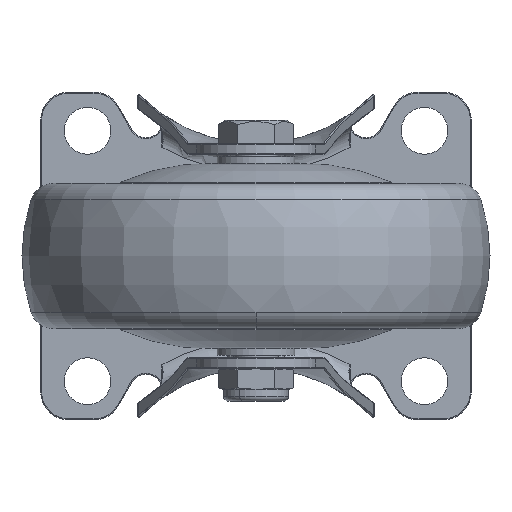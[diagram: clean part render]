
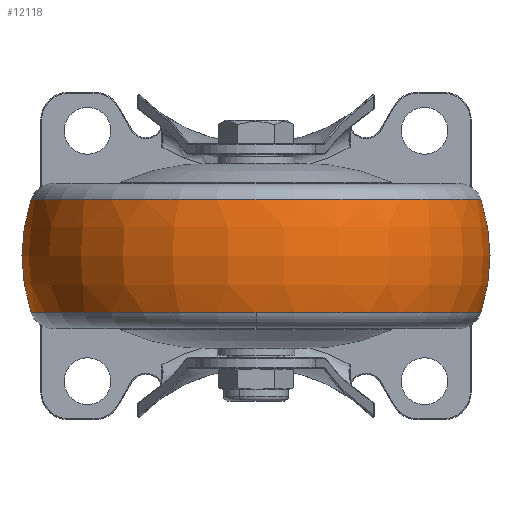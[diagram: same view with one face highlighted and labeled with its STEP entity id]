
A CAD part, front view. The second image highlights one B-rep face of the part: STEP entity #12118.
In plain terms, the highlighted toroidal (fillet/blend) face has major radius 12 mm and minor radius 38 mm.
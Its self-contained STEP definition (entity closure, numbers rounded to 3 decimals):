
#23 = CIRCLE ( 'NONE', #2297, 48.025 ) ;
#127 = CIRCLE ( 'NONE', #13951, 48.025 ) ;
#482 = CARTESIAN_POINT ( 'NONE',  ( 0., 0., -12. ) ) ;
#485 = EDGE_CURVE ( 'NONE', #13211, #14104, #10873, .T. ) ;
#603 = CARTESIAN_POINT ( 'NONE',  ( 12.091, 0., 0. ) ) ;
#897 = VERTEX_POINT ( 'NONE', #14449 ) ;
#1581 = DIRECTION ( 'NONE',  ( 0., -1., 0. ) ) ;
#2297 = AXIS2_PLACEMENT_3D ( 'NONE', #4352, #5574, #14179 ) ;
#2654 = EDGE_CURVE ( 'NONE', #14104, #4662, #23, .T. ) ;
#2853 = AXIS2_PLACEMENT_3D ( 'NONE', #482, #5360, #13701 ) ;
#3056 = DIRECTION ( 'NONE',  ( -1., 0., 0. ) ) ;
#3375 = DIRECTION ( 'NONE',  ( 0., 0., 1. ) ) ;
#3913 = AXIS2_PLACEMENT_3D ( 'NONE', #6216, #14737, #9450 ) ;
#4146 = VERTEX_POINT ( 'NONE', #6450 ) ;
#4332 = AXIS2_PLACEMENT_3D ( 'NONE', #7606, #1581, #6482 ) ;
#4352 = CARTESIAN_POINT ( 'NONE',  ( -12.091, 0., 0. ) ) ;
#4394 = CIRCLE ( 'NONE', #2853, 38. ) ;
#4662 = VERTEX_POINT ( 'NONE', #4887 ) ;
#4887 = CARTESIAN_POINT ( 'NONE',  ( -12.091, 0., -48.025 ) ) ;
#5339 = CARTESIAN_POINT ( 'NONE',  ( -12.091, -48.025, 0. ) ) ;
#5360 = DIRECTION ( 'NONE',  ( 0., 1., 0. ) ) ;
#5574 = DIRECTION ( 'NONE',  ( 1., 0., 0. ) ) ;
#6033 = CARTESIAN_POINT ( 'NONE',  ( 0., 0., 0. ) ) ;
#6199 = ORIENTED_EDGE ( 'NONE', *, *, #2654, .T. ) ;
#6216 = CARTESIAN_POINT ( 'NONE',  ( -12.091, 0., 0. ) ) ;
#6450 = CARTESIAN_POINT ( 'NONE',  ( 12.091, 0., 48.025 ) ) ;
#6482 = DIRECTION ( 'NONE',  ( 0., 0., -1. ) ) ;
#7183 = CIRCLE ( 'NONE', #4332, 38. ) ;
#7551 = ORIENTED_EDGE ( 'NONE', *, *, #15236, .F. ) ;
#7587 = EDGE_CURVE ( 'NONE', #897, #4662, #4394, .T. ) ;
#7606 = CARTESIAN_POINT ( 'NONE',  ( 0., 0., 12. ) ) ;
#8940 = DIRECTION ( 'NONE',  ( 1., 0., 0. ) ) ;
#9450 = DIRECTION ( 'NONE',  ( 0., 0., 1. ) ) ;
#9964 = ORIENTED_EDGE ( 'NONE', *, *, #485, .T. ) ;
#10873 = CIRCLE ( 'NONE', #3913, 48.025 ) ;
#10935 = DIRECTION ( 'NONE',  ( 0., 0., 1. ) ) ;
#11154 = ORIENTED_EDGE ( 'NONE', *, *, #11495, .T. ) ;
#11495 = EDGE_CURVE ( 'NONE', #4146, #13211, #7183, .T. ) ;
#12118 = ADVANCED_FACE ( 'NONE', ( #15295 ), #13355, .T. ) ;
#12207 = EDGE_LOOP ( 'NONE', ( #14252, #7551, #11154, #9964, #6199 ) ) ;
#12818 = CARTESIAN_POINT ( 'NONE',  ( -12.091, 0., 48.025 ) ) ;
#12828 = AXIS2_PLACEMENT_3D ( 'NONE', #6033, #3056, #10935 ) ;
#13211 = VERTEX_POINT ( 'NONE', #12818 ) ;
#13355 = TOROIDAL_SURFACE ( 'NONE', #12828, 12., 38. ) ;
#13701 = DIRECTION ( 'NONE',  ( 0., 0., 1. ) ) ;
#13951 = AXIS2_PLACEMENT_3D ( 'NONE', #603, #8940, #3375 ) ;
#14104 = VERTEX_POINT ( 'NONE', #5339 ) ;
#14179 = DIRECTION ( 'NONE',  ( 0., 0., 1. ) ) ;
#14252 = ORIENTED_EDGE ( 'NONE', *, *, #7587, .F. ) ;
#14449 = CARTESIAN_POINT ( 'NONE',  ( 12.091, 0., -48.025 ) ) ;
#14737 = DIRECTION ( 'NONE',  ( 1., 0., 0. ) ) ;
#15236 = EDGE_CURVE ( 'NONE', #4146, #897, #127, .T. ) ;
#15295 = FACE_OUTER_BOUND ( 'NONE', #12207, .T. ) ;
